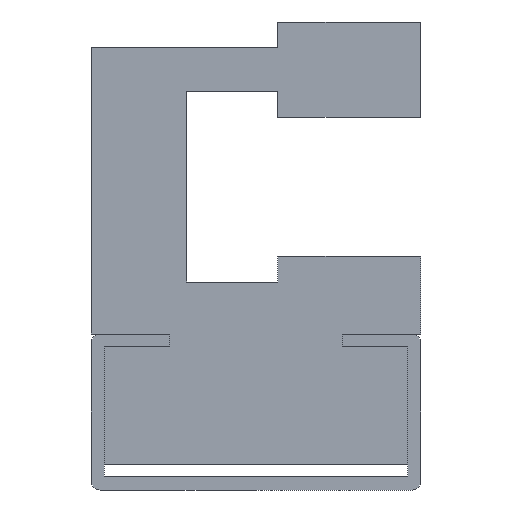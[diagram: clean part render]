
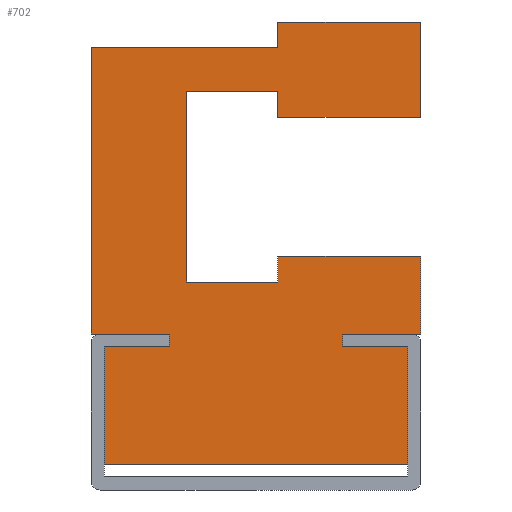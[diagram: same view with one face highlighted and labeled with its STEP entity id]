
A CAD part, front view. The second image highlights one B-rep face of the part: STEP entity #702.
In plain terms, the highlighted planar face has unit normal (0, -1, 0).
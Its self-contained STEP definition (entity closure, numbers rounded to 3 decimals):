
#61=CARTESIAN_POINT('Vertex',(2.5,0.,25.5)) ;
#66=CARTESIAN_POINT('Line Origine',(10.75,0.,25.5)) ;
#70=CARTESIAN_POINT('Vertex',(19.,0.,25.5)) ;
#97=CARTESIAN_POINT('Line Origine',(19.,0.,20.)) ;
#101=CARTESIAN_POINT('Vertex',(19.,0.,14.5)) ;
#128=CARTESIAN_POINT('Line Origine',(10.75,0.,14.5)) ;
#132=CARTESIAN_POINT('Vertex',(2.5,0.,14.5)) ;
#159=CARTESIAN_POINT('Line Origine',(2.5,0.,16.)) ;
#163=CARTESIAN_POINT('Vertex',(2.5,0.,17.5)) ;
#190=CARTESIAN_POINT('Line Origine',(-2.75,0.,17.5)) ;
#194=CARTESIAN_POINT('Vertex',(-8.,0.,17.5)) ;
#221=CARTESIAN_POINT('Line Origine',(-8.,0.,6.5)) ;
#225=CARTESIAN_POINT('Vertex',(-8.,0.,-4.5)) ;
#252=CARTESIAN_POINT('Line Origine',(-2.75,0.,-4.5)) ;
#256=CARTESIAN_POINT('Vertex',(2.5,0.,-4.5)) ;
#278=CARTESIAN_POINT('Line Origine',(2.5,0.,-3.)) ;
#282=CARTESIAN_POINT('Vertex',(2.5,0.,-1.5)) ;
#309=CARTESIAN_POINT('Line Origine',(10.75,0.,-1.5)) ;
#313=CARTESIAN_POINT('Vertex',(19.,0.,-1.5)) ;
#342=CARTESIAN_POINT('Line Origine',(19.,0.,-6.)) ;
#346=CARTESIAN_POINT('Vertex',(19.,0.,-10.5)) ;
#373=CARTESIAN_POINT('Line Origine',(14.5,0.,-10.5)) ;
#377=CARTESIAN_POINT('Vertex',(10.,0.,-10.5)) ;
#397=CARTESIAN_POINT('Line Origine',(10.,0.,-11.25)) ;
#401=CARTESIAN_POINT('Vertex',(10.,0.,-12.)) ;
#428=CARTESIAN_POINT('Line Origine',(13.75,0.,-12.)) ;
#432=CARTESIAN_POINT('Vertex',(17.5,0.,-12.)) ;
#466=CARTESIAN_POINT('Line Origine',(17.5,0.,-18.75)) ;
#470=CARTESIAN_POINT('Vertex',(17.5,0.,-25.5)) ;
#497=CARTESIAN_POINT('Line Origine',(0.,0.,-25.5)) ;
#501=CARTESIAN_POINT('Vertex',(-17.5,0.,-25.5)) ;
#521=CARTESIAN_POINT('Line Origine',(-17.5,0.,-18.75)) ;
#525=CARTESIAN_POINT('Vertex',(-17.5,0.,-12.)) ;
#547=CARTESIAN_POINT('Line Origine',(-13.75,0.,-12.)) ;
#551=CARTESIAN_POINT('Vertex',(-10.,0.,-12.)) ;
#578=CARTESIAN_POINT('Line Origine',(-10.,0.,-11.25)) ;
#582=CARTESIAN_POINT('Vertex',(-10.,0.,-10.5)) ;
#611=CARTESIAN_POINT('Line Origine',(-14.5,0.,-10.5)) ;
#615=CARTESIAN_POINT('Vertex',(-19.,0.,-10.5)) ;
#635=CARTESIAN_POINT('Line Origine',(-19.,0.,6.05)) ;
#639=CARTESIAN_POINT('Vertex',(-19.,0.,22.6)) ;
#661=CARTESIAN_POINT('Axis2P3D Location',(0.,0.,0.)) ;
#666=CARTESIAN_POINT('Line Origine',(2.5,0.,24.05)) ;
#670=CARTESIAN_POINT('Vertex',(2.5,0.,22.6)) ;
#673=CARTESIAN_POINT('Line Origine',(-8.25,0.,22.6)) ;
#67=DIRECTION('Vector Direction',(-1.,0.,0.)) ;
#98=DIRECTION('Vector Direction',(0.,0.,1.)) ;
#129=DIRECTION('Vector Direction',(-1.,0.,0.)) ;
#160=DIRECTION('Vector Direction',(0.,0.,1.)) ;
#191=DIRECTION('Vector Direction',(-1.,0.,0.)) ;
#222=DIRECTION('Vector Direction',(0.,0.,-1.)) ;
#253=DIRECTION('Vector Direction',(1.,0.,0.)) ;
#279=DIRECTION('Vector Direction',(0.,0.,1.)) ;
#310=DIRECTION('Vector Direction',(1.,0.,0.)) ;
#343=DIRECTION('Vector Direction',(0.,0.,1.)) ;
#374=DIRECTION('Vector Direction',(1.,0.,0.)) ;
#398=DIRECTION('Vector Direction',(0.,0.,-1.)) ;
#429=DIRECTION('Vector Direction',(1.,0.,0.)) ;
#467=DIRECTION('Vector Direction',(0.,0.,-1.)) ;
#498=DIRECTION('Vector Direction',(1.,0.,0.)) ;
#522=DIRECTION('Vector Direction',(0.,0.,1.)) ;
#548=DIRECTION('Vector Direction',(1.,0.,0.)) ;
#579=DIRECTION('Vector Direction',(0.,0.,1.)) ;
#612=DIRECTION('Vector Direction',(1.,0.,0.)) ;
#636=DIRECTION('Vector Direction',(0.,0.,-1.)) ;
#662=DIRECTION('Axis2P3D Direction',(0.,1.,0.)) ;
#663=DIRECTION('Axis2P3D XDirection',(-1.,0.,0.)) ;
#667=DIRECTION('Vector Direction',(0.,0.,1.)) ;
#674=DIRECTION('Vector Direction',(1.,0.,0.)) ;
#664=AXIS2_PLACEMENT_3D('Plane Axis2P3D',#661,#662,#663) ;
#679=ORIENTED_EDGE('',*,*,#196,.F.) ;
#680=ORIENTED_EDGE('',*,*,#165,.F.) ;
#681=ORIENTED_EDGE('',*,*,#134,.F.) ;
#682=ORIENTED_EDGE('',*,*,#103,.F.) ;
#683=ORIENTED_EDGE('',*,*,#72,.F.) ;
#684=ORIENTED_EDGE('',*,*,#672,.F.) ;
#685=ORIENTED_EDGE('',*,*,#677,.F.) ;
#686=ORIENTED_EDGE('',*,*,#641,.T.) ;
#687=ORIENTED_EDGE('',*,*,#617,.T.) ;
#688=ORIENTED_EDGE('',*,*,#584,.F.) ;
#689=ORIENTED_EDGE('',*,*,#553,.F.) ;
#690=ORIENTED_EDGE('',*,*,#527,.F.) ;
#691=ORIENTED_EDGE('',*,*,#503,.F.) ;
#692=ORIENTED_EDGE('',*,*,#472,.F.) ;
#693=ORIENTED_EDGE('',*,*,#434,.F.) ;
#694=ORIENTED_EDGE('',*,*,#403,.F.) ;
#695=ORIENTED_EDGE('',*,*,#379,.T.) ;
#696=ORIENTED_EDGE('',*,*,#348,.T.) ;
#697=ORIENTED_EDGE('',*,*,#315,.F.) ;
#698=ORIENTED_EDGE('',*,*,#284,.F.) ;
#699=ORIENTED_EDGE('',*,*,#258,.F.) ;
#700=ORIENTED_EDGE('',*,*,#227,.F.) ;
#68=VECTOR('Line Direction',#67,1.) ;
#99=VECTOR('Line Direction',#98,1.) ;
#130=VECTOR('Line Direction',#129,1.) ;
#161=VECTOR('Line Direction',#160,1.) ;
#192=VECTOR('Line Direction',#191,1.) ;
#223=VECTOR('Line Direction',#222,1.) ;
#254=VECTOR('Line Direction',#253,1.) ;
#280=VECTOR('Line Direction',#279,1.) ;
#311=VECTOR('Line Direction',#310,1.) ;
#344=VECTOR('Line Direction',#343,1.) ;
#375=VECTOR('Line Direction',#374,1.) ;
#399=VECTOR('Line Direction',#398,1.) ;
#430=VECTOR('Line Direction',#429,1.) ;
#468=VECTOR('Line Direction',#467,1.) ;
#499=VECTOR('Line Direction',#498,1.) ;
#523=VECTOR('Line Direction',#522,1.) ;
#549=VECTOR('Line Direction',#548,1.) ;
#580=VECTOR('Line Direction',#579,1.) ;
#613=VECTOR('Line Direction',#612,1.) ;
#637=VECTOR('Line Direction',#636,1.) ;
#668=VECTOR('Line Direction',#667,1.) ;
#675=VECTOR('Line Direction',#674,1.) ;
#702=ADVANCED_FACE('PartBody',(#701),#665,.F.) ;
#72=EDGE_CURVE('',#62,#71,#69,.F.) ;
#103=EDGE_CURVE('',#71,#102,#100,.F.) ;
#134=EDGE_CURVE('',#102,#133,#131,.T.) ;
#165=EDGE_CURVE('',#133,#164,#162,.T.) ;
#196=EDGE_CURVE('',#164,#195,#193,.T.) ;
#227=EDGE_CURVE('',#195,#226,#224,.T.) ;
#258=EDGE_CURVE('',#226,#257,#255,.T.) ;
#284=EDGE_CURVE('',#257,#283,#281,.T.) ;
#315=EDGE_CURVE('',#283,#314,#312,.T.) ;
#348=EDGE_CURVE('',#347,#314,#345,.T.) ;
#379=EDGE_CURVE('',#378,#347,#376,.T.) ;
#403=EDGE_CURVE('',#378,#402,#400,.T.) ;
#434=EDGE_CURVE('',#402,#433,#431,.T.) ;
#472=EDGE_CURVE('',#433,#471,#469,.T.) ;
#503=EDGE_CURVE('',#471,#502,#500,.F.) ;
#527=EDGE_CURVE('',#502,#526,#524,.T.) ;
#553=EDGE_CURVE('',#526,#552,#550,.T.) ;
#584=EDGE_CURVE('',#552,#583,#581,.T.) ;
#617=EDGE_CURVE('',#616,#583,#614,.T.) ;
#641=EDGE_CURVE('',#640,#616,#638,.T.) ;
#672=EDGE_CURVE('',#671,#62,#669,.T.) ;
#677=EDGE_CURVE('',#640,#671,#676,.T.) ;
#678=EDGE_LOOP('',(#679,#680,#681,#682,#683,#684,#685,#686,#687,#688,#689,#690,#691,#692,#693,#694,#695,#696,#697,#698,#699,#700)) ;
#701=FACE_OUTER_BOUND('',#678,.T.) ;
#69=LINE('Line',#66,#68) ;
#100=LINE('Line',#97,#99) ;
#131=LINE('Line',#128,#130) ;
#162=LINE('Line',#159,#161) ;
#193=LINE('Line',#190,#192) ;
#224=LINE('Line',#221,#223) ;
#255=LINE('Line',#252,#254) ;
#281=LINE('Line',#278,#280) ;
#312=LINE('Line',#309,#311) ;
#345=LINE('Line',#342,#344) ;
#376=LINE('Line',#373,#375) ;
#400=LINE('Line',#397,#399) ;
#431=LINE('Line',#428,#430) ;
#469=LINE('Line',#466,#468) ;
#500=LINE('Line',#497,#499) ;
#524=LINE('Line',#521,#523) ;
#550=LINE('Line',#547,#549) ;
#581=LINE('Line',#578,#580) ;
#614=LINE('Line',#611,#613) ;
#638=LINE('Line',#635,#637) ;
#669=LINE('Line',#666,#668) ;
#676=LINE('Line',#673,#675) ;
#665=PLANE('',#664) ;
#62=VERTEX_POINT('',#61) ;
#71=VERTEX_POINT('',#70) ;
#102=VERTEX_POINT('',#101) ;
#133=VERTEX_POINT('',#132) ;
#164=VERTEX_POINT('',#163) ;
#195=VERTEX_POINT('',#194) ;
#226=VERTEX_POINT('',#225) ;
#257=VERTEX_POINT('',#256) ;
#283=VERTEX_POINT('',#282) ;
#314=VERTEX_POINT('',#313) ;
#347=VERTEX_POINT('',#346) ;
#378=VERTEX_POINT('',#377) ;
#402=VERTEX_POINT('',#401) ;
#433=VERTEX_POINT('',#432) ;
#471=VERTEX_POINT('',#470) ;
#502=VERTEX_POINT('',#501) ;
#526=VERTEX_POINT('',#525) ;
#552=VERTEX_POINT('',#551) ;
#583=VERTEX_POINT('',#582) ;
#616=VERTEX_POINT('',#615) ;
#640=VERTEX_POINT('',#639) ;
#671=VERTEX_POINT('',#670) ;
